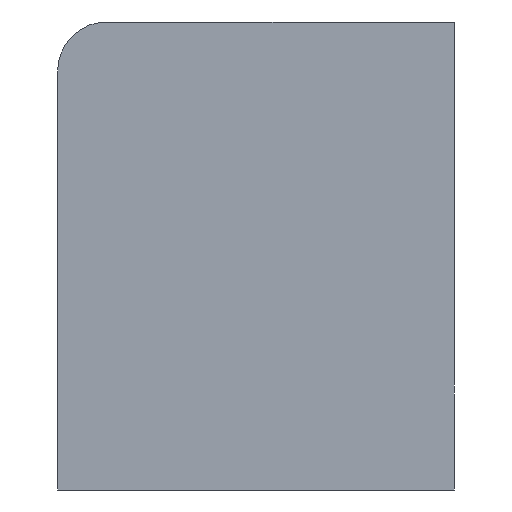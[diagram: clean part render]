
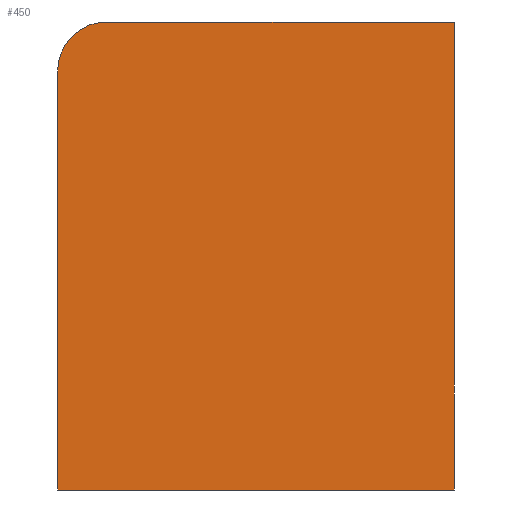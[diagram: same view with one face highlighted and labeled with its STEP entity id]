
A CAD part, left-side view. The second image highlights one B-rep face of the part: STEP entity #450.
In plain terms, the highlighted planar face has unit normal (-1, 0, 0).
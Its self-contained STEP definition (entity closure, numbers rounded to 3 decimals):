
#233=CARTESIAN_POINT('Vertex',(0.,0.,105.)) ;
#236=CARTESIAN_POINT('Line Origine',(0.,0.,52.5)) ;
#240=CARTESIAN_POINT('Vertex',(0.,0.,0.)) ;
#329=CARTESIAN_POINT('Vertex',(0.,89.,0.)) ;
#332=CARTESIAN_POINT('Line Origine',(0.,89.,47.)) ;
#336=CARTESIAN_POINT('Vertex',(0.,89.,94.)) ;
#396=CARTESIAN_POINT('Line Origine',(0.,44.5,0.)) ;
#414=CARTESIAN_POINT('Axis2P3D Location',(0.,78.,94.)) ;
#418=CARTESIAN_POINT('Vertex',(0.,78.,105.)) ;
#433=CARTESIAN_POINT('Axis2P3D Location',(0.,89.,0.)) ;
#438=CARTESIAN_POINT('Line Origine',(0.,39.,105.)) ;
#237=DIRECTION('Vector Direction',(0.,0.,1.)) ;
#333=DIRECTION('Vector Direction',(0.,0.,1.)) ;
#397=DIRECTION('Vector Direction',(0.,-1.,0.)) ;
#415=DIRECTION('Axis2P3D Direction',(-1.,0.,0.)) ;
#434=DIRECTION('Axis2P3D Direction',(-1.,0.,0.)) ;
#435=DIRECTION('Axis2P3D XDirection',(0.,-1.,0.)) ;
#439=DIRECTION('Vector Direction',(0.,1.,0.)) ;
#416=AXIS2_PLACEMENT_3D('Circle Axis2P3D',#414,#415,$) ;
#436=AXIS2_PLACEMENT_3D('Plane Axis2P3D',#433,#434,#435) ;
#444=ORIENTED_EDGE('',*,*,#242,.T.) ;
#445=ORIENTED_EDGE('',*,*,#442,.T.) ;
#446=ORIENTED_EDGE('',*,*,#420,.T.) ;
#447=ORIENTED_EDGE('',*,*,#338,.F.) ;
#448=ORIENTED_EDGE('',*,*,#400,.T.) ;
#238=VECTOR('Line Direction',#237,1.) ;
#334=VECTOR('Line Direction',#333,1.) ;
#398=VECTOR('Line Direction',#397,1.) ;
#440=VECTOR('Line Direction',#439,1.) ;
#450=ADVANCED_FACE('PartBody',(#449),#437,.T.) ;
#417=CIRCLE('generated circle',#416,11.) ;
#242=EDGE_CURVE('',#241,#234,#239,.T.) ;
#338=EDGE_CURVE('',#330,#337,#335,.T.) ;
#400=EDGE_CURVE('',#330,#241,#399,.T.) ;
#420=EDGE_CURVE('',#419,#337,#417,.T.) ;
#442=EDGE_CURVE('',#234,#419,#441,.T.) ;
#443=EDGE_LOOP('',(#444,#445,#446,#447,#448)) ;
#449=FACE_OUTER_BOUND('',#443,.T.) ;
#239=LINE('Line',#236,#238) ;
#335=LINE('Line',#332,#334) ;
#399=LINE('Line',#396,#398) ;
#441=LINE('Line',#438,#440) ;
#437=PLANE('',#436) ;
#234=VERTEX_POINT('',#233) ;
#241=VERTEX_POINT('',#240) ;
#330=VERTEX_POINT('',#329) ;
#337=VERTEX_POINT('',#336) ;
#419=VERTEX_POINT('',#418) ;
